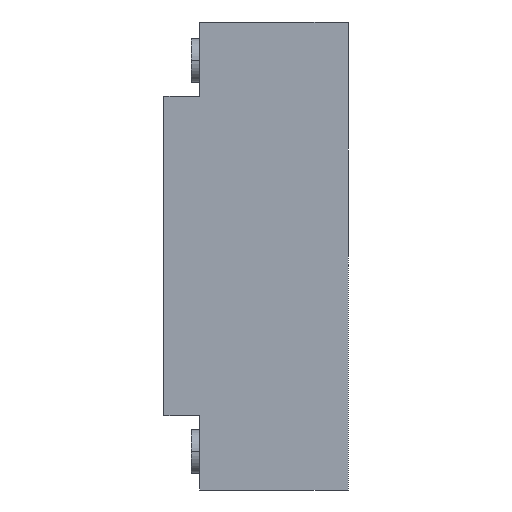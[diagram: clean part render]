
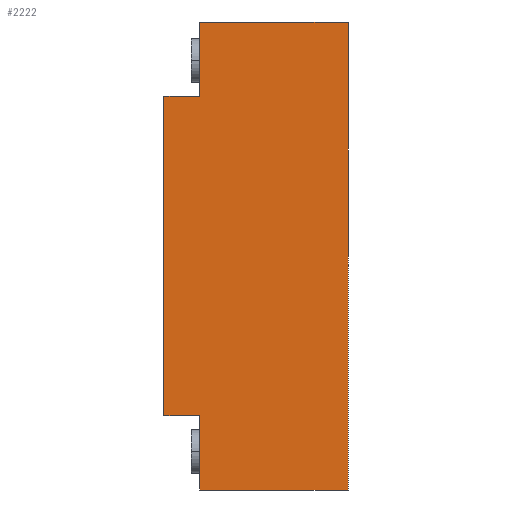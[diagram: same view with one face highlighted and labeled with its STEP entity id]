
A CAD part, left-side view. The second image highlights one B-rep face of the part: STEP entity #2222.
In plain terms, the highlighted planar face has unit normal (-1, 0, 0).
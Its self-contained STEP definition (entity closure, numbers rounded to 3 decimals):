
#1=DIRECTION('',(0.,1.,0.));
#2=VECTOR('',#1,34.9);
#3=CARTESIAN_POINT('',(-100.1,0.,-55.));
#4=LINE('',#3,#2);
#5=DIRECTION('',(0.,0.,1.));
#6=VECTOR('',#5,17.5);
#7=CARTESIAN_POINT('',(-100.1,34.9,-55.));
#8=LINE('',#7,#6);
#9=DIRECTION('',(0.,1.,0.));
#10=VECTOR('',#9,8.4);
#11=CARTESIAN_POINT('',(-100.1,34.9,-37.5));
#12=LINE('',#11,#10);
#13=DIRECTION('',(0.,0.,1.));
#14=VECTOR('',#13,75.);
#15=CARTESIAN_POINT('',(-100.1,43.3,-37.5));
#16=LINE('',#15,#14);
#17=DIRECTION('',(0.,-1.,0.));
#18=VECTOR('',#17,8.4);
#19=CARTESIAN_POINT('',(-100.1,43.3,37.5));
#20=LINE('',#19,#18);
#21=DIRECTION('',(0.,0.,1.));
#22=VECTOR('',#21,17.5);
#23=CARTESIAN_POINT('',(-100.1,34.9,37.5));
#24=LINE('',#23,#22);
#25=DIRECTION('',(0.,-1.,0.));
#26=VECTOR('',#25,34.9);
#27=CARTESIAN_POINT('',(-100.1,34.9,55.));
#28=LINE('',#27,#26);
#29=DIRECTION('',(0.,0.,-1.));
#30=VECTOR('',#29,110.);
#31=CARTESIAN_POINT('',(-100.1,0.,55.));
#32=LINE('',#31,#30);
#1685=CARTESIAN_POINT('',(-100.1,0.,-55.));
#1686=CARTESIAN_POINT('',(-100.1,34.9,-55.));
#1687=VERTEX_POINT('',#1685);
#1688=VERTEX_POINT('',#1686);
#1689=CARTESIAN_POINT('',(-100.1,34.9,-37.5));
#1690=VERTEX_POINT('',#1689);
#1691=CARTESIAN_POINT('',(-100.1,43.3,-37.5));
#1692=VERTEX_POINT('',#1691);
#1693=CARTESIAN_POINT('',(-100.1,43.3,37.5));
#1694=VERTEX_POINT('',#1693);
#1695=CARTESIAN_POINT('',(-100.1,34.9,37.5));
#1696=VERTEX_POINT('',#1695);
#1697=CARTESIAN_POINT('',(-100.1,34.9,55.));
#1698=VERTEX_POINT('',#1697);
#1699=CARTESIAN_POINT('',(-100.1,0.,55.));
#1700=VERTEX_POINT('',#1699);
#2199=CARTESIAN_POINT('',(-100.1,0.,0.));
#2200=DIRECTION('',(1.,0.,0.));
#2201=DIRECTION('',(0.,-1.,0.));
#2202=AXIS2_PLACEMENT_3D('',#2199,#2200,#2201);
#2203=PLANE('',#2202);
#2205=ORIENTED_EDGE('',*,*,#2204,.T.);
#2207=ORIENTED_EDGE('',*,*,#2206,.T.);
#2209=ORIENTED_EDGE('',*,*,#2208,.T.);
#2211=ORIENTED_EDGE('',*,*,#2210,.T.);
#2213=ORIENTED_EDGE('',*,*,#2212,.T.);
#2215=ORIENTED_EDGE('',*,*,#2214,.T.);
#2217=ORIENTED_EDGE('',*,*,#2216,.T.);
#2219=ORIENTED_EDGE('',*,*,#2218,.T.);
#2220=EDGE_LOOP('',(#2205,#2207,#2209,#2211,#2213,#2215,#2217,#2219));
#2221=FACE_OUTER_BOUND('',#2220,.F.);
#2222=ADVANCED_FACE('',(#2221),#2203,.F.);
#2204=EDGE_CURVE('',#1687,#1688,#4,.T.);
#2206=EDGE_CURVE('',#1688,#1690,#8,.T.);
#2208=EDGE_CURVE('',#1690,#1692,#12,.T.);
#2210=EDGE_CURVE('',#1692,#1694,#16,.T.);
#2212=EDGE_CURVE('',#1694,#1696,#20,.T.);
#2214=EDGE_CURVE('',#1696,#1698,#24,.T.);
#2216=EDGE_CURVE('',#1698,#1700,#28,.T.);
#2218=EDGE_CURVE('',#1700,#1687,#32,.T.);
